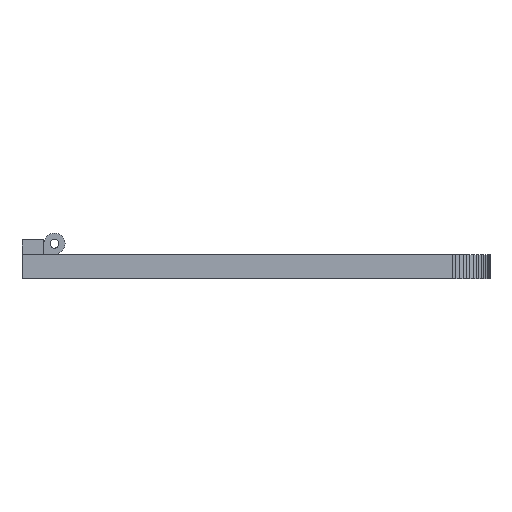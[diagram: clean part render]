
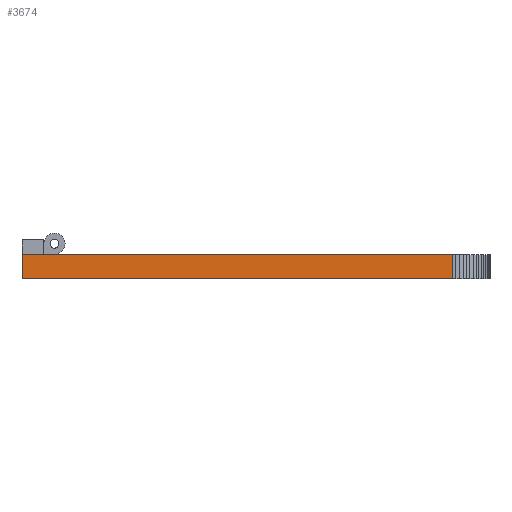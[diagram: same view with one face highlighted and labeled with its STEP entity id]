
A CAD part, front view. The second image highlights one B-rep face of the part: STEP entity #3674.
In plain terms, the highlighted planar face has unit normal (0, -1, 0).
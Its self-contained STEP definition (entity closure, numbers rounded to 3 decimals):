
#72 = PLANE('',#73);
#73 = AXIS2_PLACEMENT_3D('',#74,#75,#76);
#74 = CARTESIAN_POINT('',(84.674,-90.875,-3.5));
#75 = DIRECTION('',(0.,0.,1.));
#76 = DIRECTION('',(1.,0.,-0.));
#126 = PLANE('',#127);
#127 = AXIS2_PLACEMENT_3D('',#128,#129,#130);
#128 = CARTESIAN_POINT('',(84.674,-90.875,-12.5));
#129 = DIRECTION('',(0.,0.,1.));
#130 = DIRECTION('',(1.,0.,-0.));
#819 = VERTEX_POINT('',#820);
#820 = CARTESIAN_POINT('',(0.,-154.949,-12.5));
#834 = PLANE('',#835);
#835 = AXIS2_PLACEMENT_3D('',#836,#837,#838);
#836 = CARTESIAN_POINT('',(0.,-26.8,-12.5));
#837 = DIRECTION('',(1.,0.,-0.));
#838 = DIRECTION('',(0.,-1.,0.));
#846 = EDGE_CURVE('',#819,#847,#849,.T.);
#847 = VERTEX_POINT('',#848);
#848 = CARTESIAN_POINT('',(158.97,-154.949,-12.5));
#849 = SURFACE_CURVE('',#850,(#854,#861),.PCURVE_S1.);
#850 = LINE('',#851,#852);
#851 = CARTESIAN_POINT('',(0.,-154.949,-12.5));
#852 = VECTOR('',#853,1.);
#853 = DIRECTION('',(1.,0.,0.));
#854 = PCURVE('',#126,#855);
#855 = DEFINITIONAL_REPRESENTATION('',(#856),#860);
#856 = LINE('',#857,#858);
#857 = CARTESIAN_POINT('',(-84.674,-64.075));
#858 = VECTOR('',#859,1.);
#859 = DIRECTION('',(1.,0.));
#860 = ( GEOMETRIC_REPRESENTATION_CONTEXT(2) 
PARAMETRIC_REPRESENTATION_CONTEXT() REPRESENTATION_CONTEXT('2D SPACE',''
  ) );
#861 = PCURVE('',#862,#867);
#862 = PLANE('',#863);
#863 = AXIS2_PLACEMENT_3D('',#864,#865,#866);
#864 = CARTESIAN_POINT('',(0.,-154.949,-12.5));
#865 = DIRECTION('',(0.,1.,0.));
#866 = DIRECTION('',(1.,0.,0.));
#867 = DEFINITIONAL_REPRESENTATION('',(#868),#872);
#868 = LINE('',#869,#870);
#869 = CARTESIAN_POINT('',(0.,0.));
#870 = VECTOR('',#871,1.);
#871 = DIRECTION('',(1.,0.));
#872 = ( GEOMETRIC_REPRESENTATION_CONTEXT(2) 
PARAMETRIC_REPRESENTATION_CONTEXT() REPRESENTATION_CONTEXT('2D SPACE',''
  ) );
#890 = PLANE('',#891);
#891 = AXIS2_PLACEMENT_3D('',#892,#893,#894);
#892 = CARTESIAN_POINT('',(158.97,-154.949,-12.5));
#893 = DIRECTION('',(-0.049,0.999,0.));
#894 = DIRECTION('',(0.999,0.049,0.));
#2348 = VERTEX_POINT('',#2349);
#2349 = CARTESIAN_POINT('',(0.,-154.949,-3.5));
#2370 = EDGE_CURVE('',#2348,#2371,#2373,.T.);
#2371 = VERTEX_POINT('',#2372);
#2372 = CARTESIAN_POINT('',(158.97,-154.949,-3.5));
#2373 = SURFACE_CURVE('',#2374,(#2378,#2385),.PCURVE_S1.);
#2374 = LINE('',#2375,#2376);
#2375 = CARTESIAN_POINT('',(0.,-154.949,-3.5));
#2376 = VECTOR('',#2377,1.);
#2377 = DIRECTION('',(1.,0.,0.));
#2378 = PCURVE('',#72,#2379);
#2379 = DEFINITIONAL_REPRESENTATION('',(#2380),#2384);
#2380 = LINE('',#2381,#2382);
#2381 = CARTESIAN_POINT('',(-84.674,-64.075));
#2382 = VECTOR('',#2383,1.);
#2383 = DIRECTION('',(1.,0.));
#2384 = ( GEOMETRIC_REPRESENTATION_CONTEXT(2) 
PARAMETRIC_REPRESENTATION_CONTEXT() REPRESENTATION_CONTEXT('2D SPACE',''
  ) );
#2385 = PCURVE('',#862,#2386);
#2386 = DEFINITIONAL_REPRESENTATION('',(#2387),#2391);
#2387 = LINE('',#2388,#2389);
#2388 = CARTESIAN_POINT('',(0.,-9.));
#2389 = VECTOR('',#2390,1.);
#2390 = DIRECTION('',(1.,0.));
#2391 = ( GEOMETRIC_REPRESENTATION_CONTEXT(2) 
PARAMETRIC_REPRESENTATION_CONTEXT() REPRESENTATION_CONTEXT('2D SPACE',''
  ) );
#3624 = EDGE_CURVE('',#847,#2371,#3625,.T.);
#3625 = SURFACE_CURVE('',#3626,(#3630,#3637),.PCURVE_S1.);
#3626 = LINE('',#3627,#3628);
#3627 = CARTESIAN_POINT('',(158.97,-154.949,-12.5));
#3628 = VECTOR('',#3629,1.);
#3629 = DIRECTION('',(0.,0.,1.));
#3630 = PCURVE('',#890,#3631);
#3631 = DEFINITIONAL_REPRESENTATION('',(#3632),#3636);
#3632 = LINE('',#3633,#3634);
#3633 = CARTESIAN_POINT('',(0.,0.));
#3634 = VECTOR('',#3635,1.);
#3635 = DIRECTION('',(0.,-1.));
#3636 = ( GEOMETRIC_REPRESENTATION_CONTEXT(2) 
PARAMETRIC_REPRESENTATION_CONTEXT() REPRESENTATION_CONTEXT('2D SPACE',''
  ) );
#3637 = PCURVE('',#862,#3638);
#3638 = DEFINITIONAL_REPRESENTATION('',(#3639),#3643);
#3639 = LINE('',#3640,#3641);
#3640 = CARTESIAN_POINT('',(158.97,0.));
#3641 = VECTOR('',#3642,1.);
#3642 = DIRECTION('',(0.,-1.));
#3643 = ( GEOMETRIC_REPRESENTATION_CONTEXT(2) 
PARAMETRIC_REPRESENTATION_CONTEXT() REPRESENTATION_CONTEXT('2D SPACE',''
  ) );
#3674 = ADVANCED_FACE('',(#3675),#862,.F.);
#3675 = FACE_BOUND('',#3676,.F.);
#3676 = EDGE_LOOP('',(#3677,#3698,#3699,#3700));
#3677 = ORIENTED_EDGE('',*,*,#3678,.T.);
#3678 = EDGE_CURVE('',#819,#2348,#3679,.T.);
#3679 = SURFACE_CURVE('',#3680,(#3684,#3691),.PCURVE_S1.);
#3680 = LINE('',#3681,#3682);
#3681 = CARTESIAN_POINT('',(0.,-154.949,-12.5));
#3682 = VECTOR('',#3683,1.);
#3683 = DIRECTION('',(0.,0.,1.));
#3684 = PCURVE('',#862,#3685);
#3685 = DEFINITIONAL_REPRESENTATION('',(#3686),#3690);
#3686 = LINE('',#3687,#3688);
#3687 = CARTESIAN_POINT('',(0.,0.));
#3688 = VECTOR('',#3689,1.);
#3689 = DIRECTION('',(0.,-1.));
#3690 = ( GEOMETRIC_REPRESENTATION_CONTEXT(2) 
PARAMETRIC_REPRESENTATION_CONTEXT() REPRESENTATION_CONTEXT('2D SPACE',''
  ) );
#3691 = PCURVE('',#834,#3692);
#3692 = DEFINITIONAL_REPRESENTATION('',(#3693),#3697);
#3693 = LINE('',#3694,#3695);
#3694 = CARTESIAN_POINT('',(128.149,0.));
#3695 = VECTOR('',#3696,1.);
#3696 = DIRECTION('',(0.,-1.));
#3697 = ( GEOMETRIC_REPRESENTATION_CONTEXT(2) 
PARAMETRIC_REPRESENTATION_CONTEXT() REPRESENTATION_CONTEXT('2D SPACE',''
  ) );
#3698 = ORIENTED_EDGE('',*,*,#2370,.T.);
#3699 = ORIENTED_EDGE('',*,*,#3624,.F.);
#3700 = ORIENTED_EDGE('',*,*,#846,.F.);
